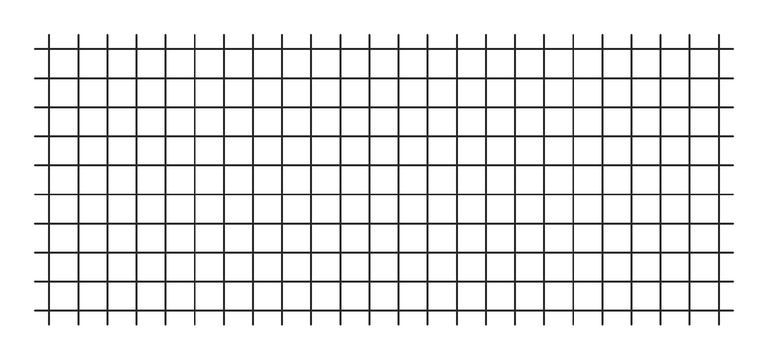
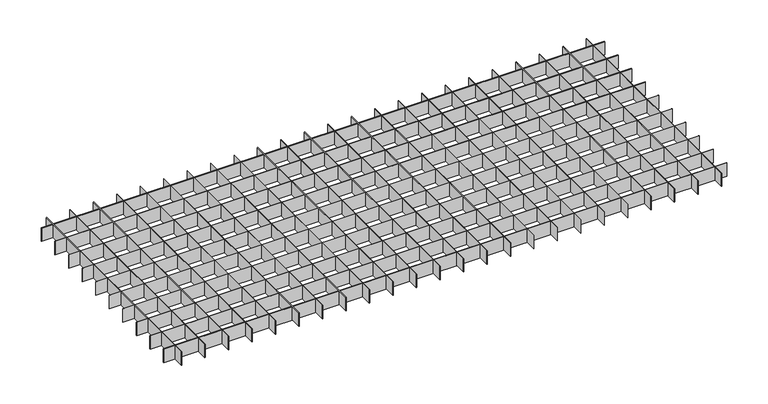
"""IFC4 building model written with IfcOpenShell, lengths in millimetres: proxy geometry, durlum_QUADRA_panel : durlum_QUADRA_width_cut."""

from ifc_helpers import new_model, si_unit, origin, origin_with_axes, place, context, project, spatial, polyline, outline, extrude, source, transform, mapped, element, save


def generic_models_1183863c(model_context):
    return source(origin(), model_context, "Body", "SweptSolid", [
        extrude(outline(polyline([(524.6, 249.5), (525.4, 249.5), (525.4, -249.5), (524.6, -249.5), (524.6, 249.5)])), origin_with_axes(), (0.0, 0.0, 1.0), 30.0),
        extrude(outline(polyline([(474.6, 249.5), (475.4, 249.5), (475.4, -249.5), (474.6, -249.5), (474.6, 249.5)])), origin_with_axes(), (0.0, 0.0, 1.0), 30.0),
        extrude(outline(polyline([(424.6, 249.5), (425.4, 249.5), (425.4, -249.5), (424.6, -249.5), (424.6, 249.5)])), origin_with_axes(), (0.0, 0.0, 1.0), 30.0),
        extrude(outline(polyline([(374.6, 249.5), (375.4, 249.5), (375.4, -249.5), (374.6, -249.5), (374.6, 249.5)])), origin_with_axes(), (0.0, 0.0, 1.0), 30.0),
        extrude(outline(polyline([(324.6, 249.5), (325.4, 249.5), (325.4, -249.5), (324.6, -249.5), (324.6, 249.5)])), origin_with_axes(), (0.0, 0.0, 1.0), 30.0),
        extrude(outline(polyline([(274.6, 249.5), (275.4, 249.5), (275.4, -249.5), (274.6, -249.5), (274.6, 249.5)])), origin_with_axes(), (0.0, 0.0, 1.0), 30.0),
        extrude(outline(polyline([(224.6, 249.5), (225.4, 249.5), (225.4, -249.5), (224.6, -249.5), (224.6, 249.5)])), origin_with_axes(), (0.0, 0.0, 1.0), 30.0),
        extrude(outline(polyline([(174.6, 249.5), (175.4, 249.5), (175.4, -249.5), (174.6, -249.5), (174.6, 249.5)])), origin_with_axes(), (0.0, 0.0, 1.0), 30.0),
        extrude(outline(polyline([(124.6, 249.5), (125.4, 249.5), (125.4, -249.5), (124.6, -249.5), (124.6, 249.5)])), origin_with_axes(), (0.0, 0.0, 1.0), 30.0),
        extrude(outline(polyline([(599.5, -174.6), (599.5, -175.4), (-599.5, -175.4), (-599.5, -174.6), (599.5, -174.6)])), origin_with_axes(), (0.0, 0.0, 1.0), 30.0),
        extrude(outline(polyline([(599.5, -124.6), (599.5, -125.4), (-599.5, -125.4), (-599.5, -124.6), (599.5, -124.6)])), origin_with_axes(), (0.0, 0.0, 1.0), 30.0),
        extrude(outline(polyline([(74.6, 249.5), (75.4, 249.5), (75.4, -249.5), (74.6, -249.5), (74.6, 249.5)])), origin_with_axes(), (0.0, 0.0, 1.0), 30.0),
        extrude(outline(polyline([(24.6, 249.5), (25.4, 249.5), (25.4, -249.5), (24.6, -249.5), (24.6, 249.5)])), origin_with_axes(), (0.0, 0.0, 1.0), 30.0),
        extrude(outline(polyline([(-25.4, 249.5), (-24.6, 249.5), (-24.6, -249.5), (-25.4, -249.5), (-25.4, 249.5)])), origin_with_axes(), (0.0, 0.0, 1.0), 30.0),
        extrude(outline(polyline([(-75.4, 249.5), (-74.6, 249.5), (-74.6, -249.5), (-75.4, -249.5), (-75.4, 249.5)])), origin_with_axes(), (0.0, 0.0, 1.0), 30.0),
        extrude(outline(polyline([(-125.4, 249.5), (-124.6, 249.5), (-124.6, -249.5), (-125.4, -249.5), (-125.4, 249.5)])), origin_with_axes(), (0.0, 0.0, 1.0), 30.0),
        extrude(outline(polyline([(-175.4, 249.5), (-174.6, 249.5), (-174.6, -249.5), (-175.4, -249.5), (-175.4, 249.5)])), origin_with_axes(), (0.0, 0.0, 1.0), 30.0),
        extrude(outline(polyline([(-225.4, 249.5), (-224.6, 249.5), (-224.6, -249.5), (-225.4, -249.5), (-225.4, 249.5)])), origin_with_axes(), (0.0, 0.0, 1.0), 30.0),
        extrude(outline(polyline([(-275.4, 249.5), (-274.6, 249.5), (-274.6, -249.5), (-275.4, -249.5), (-275.4, 249.5)])), origin_with_axes(), (0.0, 0.0, 1.0), 30.0),
        extrude(outline(polyline([(-325.4, 249.5), (-324.6, 249.5), (-324.6, -249.5), (-325.4, -249.5), (-325.4, 249.5)])), origin_with_axes(), (0.0, 0.0, 1.0), 30.0),
        extrude(outline(polyline([(-375.4, 249.5), (-374.6, 249.5), (-374.6, -249.5), (-375.4, -249.5), (-375.4, 249.5)])), origin_with_axes(), (0.0, 0.0, 1.0), 30.0),
        extrude(outline(polyline([(-425.4, 249.5), (-424.6, 249.5), (-424.6, -249.5), (-425.4, -249.5), (-425.4, 249.5)])), origin_with_axes(), (0.0, 0.0, 1.0), 30.0),
        extrude(outline(polyline([(-475.4, 249.5), (-474.6, 249.5), (-474.6, -249.5), (-475.4, -249.5), (-475.4, 249.5)])), origin_with_axes(), (0.0, 0.0, 1.0), 30.0),
        extrude(outline(polyline([(-525.4, 249.5), (-524.6, 249.5), (-524.6, -249.5), (-525.4, -249.5), (-525.4, 249.5)])), origin_with_axes(), (0.0, 0.0, 1.0), 30.0),
        extrude(outline(polyline([(599.5, -74.6), (599.5, -75.4), (-599.5, -75.4), (-599.5, -74.6), (599.5, -74.6)])), origin_with_axes(), (0.0, 0.0, 1.0), 30.0),
        extrude(outline(polyline([(599.5, -24.6), (599.5, -25.4), (-599.5, -25.4), (-599.5, -24.6), (599.5, -24.6)])), origin_with_axes(), (0.0, 0.0, 1.0), 30.0),
        extrude(outline(polyline([(599.5, 25.4), (599.5, 24.6), (-599.5, 24.6), (-599.5, 25.4), (599.5, 25.4)])), origin_with_axes(), (0.0, 0.0, 1.0), 30.0),
        extrude(outline(polyline([(599.5, 75.4), (599.5, 74.6), (-599.5, 74.6), (-599.5, 75.4), (599.5, 75.4)])), origin_with_axes(), (0.0, 0.0, 1.0), 30.0),
        extrude(outline(polyline([(599.5, 125.4), (599.5, 124.6), (-599.5, 124.6), (-599.5, 125.4), (599.5, 125.4)])), origin_with_axes(), (0.0, 0.0, 1.0), 30.0),
        extrude(outline(polyline([(599.5, 175.4), (599.5, 174.6), (-599.5, 174.6), (-599.5, 175.4), (599.5, 175.4)])), origin_with_axes(), (0.0, 0.0, 1.0), 30.0),
        extrude(outline(polyline([(574.6, 249.5), (575.4, 249.5), (575.4, -249.5), (574.6, -249.5), (574.6, 249.5)])), origin_with_axes(), (0.0, 0.0, 1.0), 30.0),
        extrude(outline(polyline([(-575.4, 249.5), (-574.6, 249.5), (-574.6, -249.5), (-575.4, -249.5), (-575.4, 249.5)])), origin_with_axes(), (0.0, 0.0, 1.0), 30.0),
        extrude(outline(polyline([(599.5, -224.6), (599.5, -225.4), (-599.5, -225.4), (-599.5, -224.6), (599.5, -224.6)])), origin_with_axes(), (0.0, 0.0, 1.0), 30.0),
        extrude(outline(polyline([(599.5, 225.4), (599.5, 224.6), (-599.5, 224.6), (-599.5, 225.4), (599.5, 225.4)])), origin_with_axes(), (0.0, 0.0, 1.0), 30.0),
    ])


if __name__ == "__main__":
    model = new_model("IFC4")
    model_context = context("Model", 3, world=origin())
    ifc_project = project(units=[si_unit("LENGTHUNIT", "METRE", prefix="MILLI")], contexts=[model_context])
    site = spatial("IfcSite", under=ifc_project)
    building = spatial("IfcBuilding", under=site)
    placement = place(None, origin())
    generic_models_shape = generic_models_1183863c(model_context)
    element("IfcBuildingElementProxy", 1, Name="durlum_QUADRA_panel : durlum_QUADRA_width_cut", ObjectType="durlum_QUADRA_panel : durlum_QUADRA_width_cut", at=placement, inside=building, context=model_context, shape_type="MappedRepresentation", body=[
        mapped(generic_models_shape, transform((0.0, 0.0, 0.0), x_axis=(1.0, 0.0, 0.0), y_axis=(0.0, 1.0, 0.0), z_axis=(0.0, 0.0, 1.0))),
    ])
    save(model, "model.ifc")
